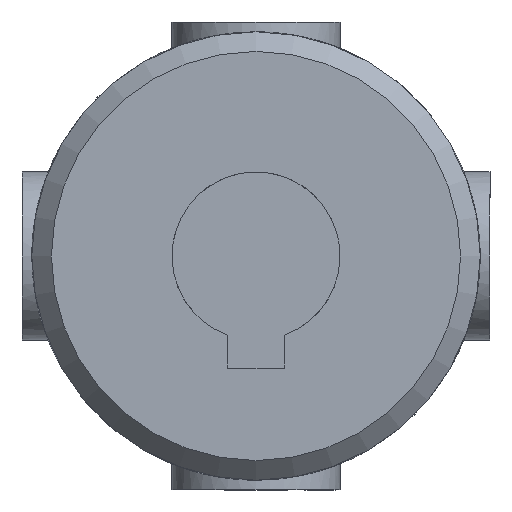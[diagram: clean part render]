
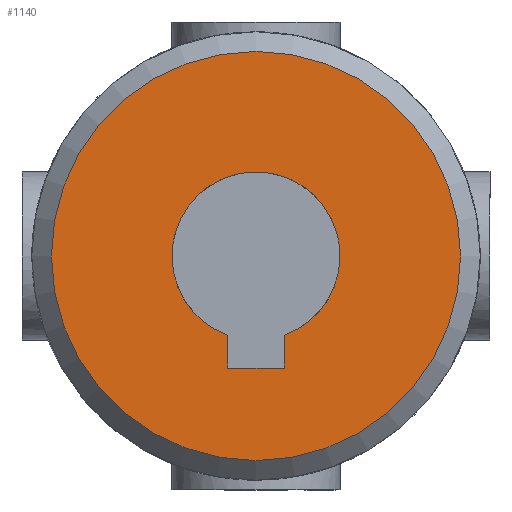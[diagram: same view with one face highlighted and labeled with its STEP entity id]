
A CAD part, front view. The second image highlights one B-rep face of the part: STEP entity #1140.
In plain terms, the highlighted planar face has unit normal (0, -1, 0).
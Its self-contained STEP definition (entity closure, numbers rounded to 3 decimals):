
#128=LINE('',#2054,#171);
#130=LINE('',#2062,#173);
#132=LINE('',#2068,#175);
#171=VECTOR('',#1493,1.172);
#173=VECTOR('',#1497,2.);
#175=VECTOR('',#1501,1.172);
#214=PLANE('',#1256);
#254=FACE_BOUND('',#416,.T.);
#313=FACE_OUTER_BOUND('',#415,.T.);
#415=EDGE_LOOP('',(#962));
#416=EDGE_LOOP('',(#963,#964,#965,#966));
#483=CIRCLE('',#1248,3.);
#485=CIRCLE('',#1254,7.3);
#569=VERTEX_POINT('',#2043);
#570=VERTEX_POINT('',#2045);
#572=VERTEX_POINT('',#2053);
#574=VERTEX_POINT('',#2061);
#576=VERTEX_POINT('',#2072);
#701=EDGE_CURVE('',#570,#569,#483,.T.);
#704=EDGE_CURVE('',#572,#570,#128,.T.);
#707=EDGE_CURVE('',#574,#572,#130,.T.);
#710=EDGE_CURVE('',#569,#574,#132,.T.);
#712=EDGE_CURVE('',#576,#576,#485,.T.);
#962=ORIENTED_EDGE('',*,*,#712,.F.);
#963=ORIENTED_EDGE('',*,*,#701,.T.);
#964=ORIENTED_EDGE('',*,*,#710,.T.);
#965=ORIENTED_EDGE('',*,*,#707,.T.);
#966=ORIENTED_EDGE('',*,*,#704,.T.);
#1140=ADVANCED_FACE('',(#313,#254),#214,.F.);
#1248=AXIS2_PLACEMENT_3D('',#2046,#1488,#1489);
#1254=AXIS2_PLACEMENT_3D('',#2073,#1506,#1507);
#1256=AXIS2_PLACEMENT_3D('',#2241,#1514,#1515);
#1488=DIRECTION('center_axis',(0.,1.,0.));
#1489=DIRECTION('ref_axis',(-0.333,0.,0.943));
#1493=DIRECTION('',(0.,0.,1.));
#1497=DIRECTION('',(-1.,0.,0.));
#1501=DIRECTION('',(0.,0.,-1.));
#1506=DIRECTION('center_axis',(0.,1.,0.));
#1507=DIRECTION('ref_axis',(1.,0.,0.));
#1514=DIRECTION('center_axis',(0.,1.,0.));
#1515=DIRECTION('ref_axis',(0.,0.,1.));
#2043=CARTESIAN_POINT('',(1.,-21.,-2.828));
#2045=CARTESIAN_POINT('',(-1.,-21.,-2.828));
#2046=CARTESIAN_POINT('Origin',(0.,-21.,0.));
#2053=CARTESIAN_POINT('',(-1.,-21.,-4.));
#2054=CARTESIAN_POINT('',(-1.,-21.,-2.));
#2061=CARTESIAN_POINT('',(1.,-21.,-4.));
#2062=CARTESIAN_POINT('',(0.5,-21.,-4.));
#2068=CARTESIAN_POINT('',(1.,-21.,-1.414));
#2072=CARTESIAN_POINT('',(-7.3,-21.,0.));
#2073=CARTESIAN_POINT('Origin',(0.,-21.,0.));
#2241=CARTESIAN_POINT('Origin',(0.,-21.,0.));
